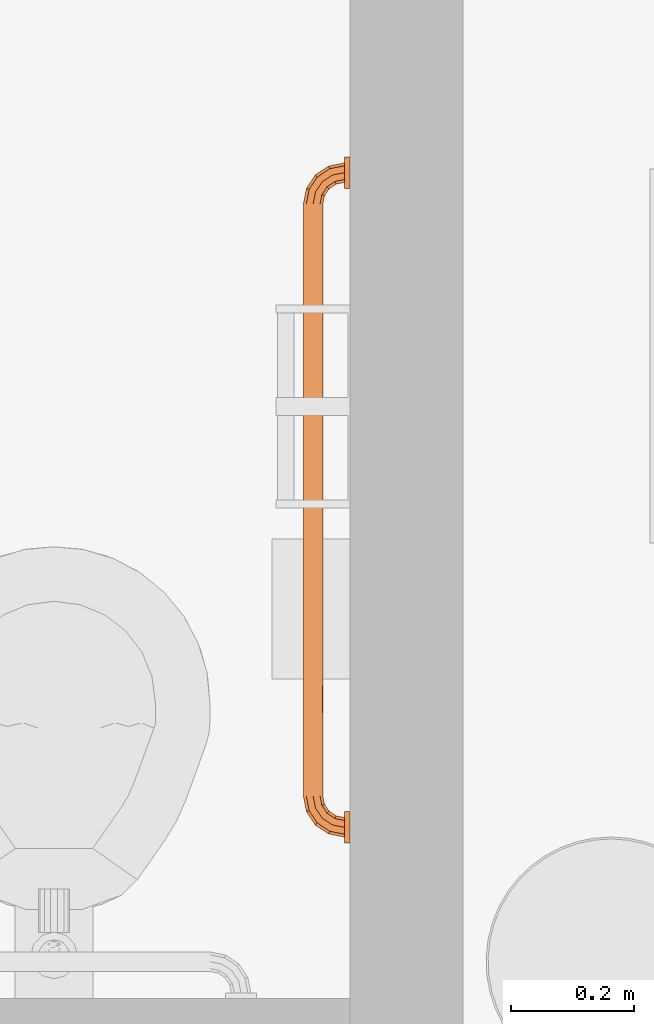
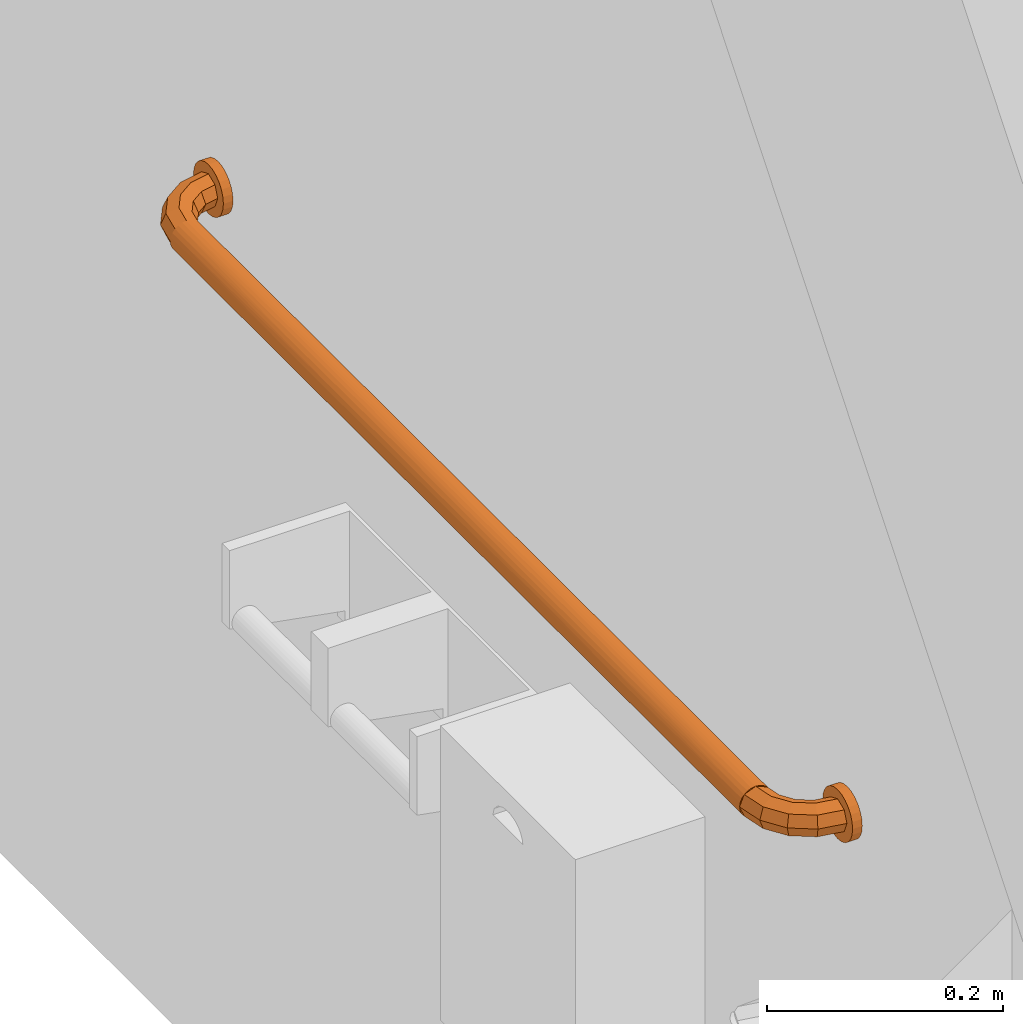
# One storey, part 17 of 142: 1 proxy.
"""IFC2X3 building model written with IfcOpenShell, lengths in feet."""

from ifc_helpers import new_model, entity, si_unit, converted_unit, derived_unit, direction, frame, origin, place, context, subcontext, project, spatial, faceted_brep, source, transform, mapped, type_object, type_shapes, element, save


model = new_model("IFC2X3")

# Units and contexts
model_context = context("Model", 3, precision=0.0001, world=origin(), true_north=direction((6.12303176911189e-17, 1.0)))
body_context = subcontext(model_context, "Body", "Model", "MODEL_VIEW")
ifc_project = project(units=[converted_unit("LENGTHUNIT", "FOOT", entity("IfcRatioMeasure", 0.3048), si_unit("LENGTHUNIT", "METRE"), dimensions=[1, 0, 0, 0, 0, 0, 0]), converted_unit("AREAUNIT", "SQUARE FOOT", entity("IfcRatioMeasure", 0.09290304), si_unit("AREAUNIT", "SQUARE_METRE"), dimensions=[2, 0, 0, 0, 0, 0, 0]), converted_unit("VOLUMEUNIT", "CUBIC FOOT", entity("IfcRatioMeasure", 0.028316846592), si_unit("VOLUMEUNIT", "CUBIC_METRE"), dimensions=[3, 0, 0, 0, 0, 0, 0]), converted_unit("PLANEANGLEUNIT", "DEGREE", entity("IfcRatioMeasure", 0.0174532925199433), si_unit("PLANEANGLEUNIT", "RADIAN"), dimensions=[0, 0, 0, 0, 0, 0, 0]), si_unit("MASSUNIT", "GRAM", prefix="KILO"), derived_unit("MASSDENSITYUNIT", [(si_unit("MASSUNIT", "GRAM", prefix="KILO"), 1), (si_unit("LENGTHUNIT", "METRE"), -3)]), si_unit("TIMEUNIT", "SECOND"), si_unit("FREQUENCYUNIT", "HERTZ"), si_unit("THERMODYNAMICTEMPERATUREUNIT", "DEGREE_CELSIUS"), derived_unit("THERMALTRANSMITTANCEUNIT", [(si_unit("MASSUNIT", "GRAM", prefix="KILO"), 1), (si_unit("THERMODYNAMICTEMPERATUREUNIT", "KELVIN"), -1), (si_unit("TIMEUNIT", "SECOND"), -3)]), derived_unit("VOLUMETRICFLOWRATEUNIT", [(si_unit("LENGTHUNIT", "METRE"), 3), (si_unit("TIMEUNIT", "SECOND"), -1)]), si_unit("ELECTRICCURRENTUNIT", "AMPERE"), si_unit("ELECTRICVOLTAGEUNIT", "VOLT"), si_unit("POWERUNIT", "WATT"), si_unit("FORCEUNIT", "NEWTON"), si_unit("ILLUMINANCEUNIT", "LUX"), si_unit("LUMINOUSFLUXUNIT", "LUMEN"), si_unit("LUMINOUSINTENSITYUNIT", "CANDELA"), derived_unit("USERDEFINED", [(si_unit("MASSUNIT", "GRAM", prefix="KILO"), -1), (si_unit("LENGTHUNIT", "METRE"), -2), (si_unit("TIMEUNIT", "SECOND"), 3), (si_unit("LUMINOUSFLUXUNIT", "LUMEN"), 1)]), derived_unit("LINEARVELOCITYUNIT", [(si_unit("LENGTHUNIT", "METRE"), 1), (si_unit("TIMEUNIT", "SECOND"), -1)]), si_unit("PRESSUREUNIT", "PASCAL"), derived_unit("USERDEFINED", [(si_unit("LENGTHUNIT", "METRE"), -2), (si_unit("MASSUNIT", "GRAM", prefix="KILO"), 1), (si_unit("TIMEUNIT", "SECOND"), -2)])], contexts=[model_context])

# Site, building, storey, space
site_placement = place(None, origin())
site = spatial("IfcSite", under=ifc_project, at=site_placement, Name="Default", CompositionType="ELEMENT")
building_placement = place(site_placement, origin())
building = spatial("IfcBuilding", under=site, at=building_placement, Name="OUTPATIENT / PACT CLINIC (Ch. 265)", CompositionType="ELEMENT")
storey_placement = place(building_placement, origin())
storey = spatial("IfcBuildingStorey", under=building, at=storey_placement, Name="LEVEL 1", CompositionType="ELEMENT", Elevation=0.0)
space_placement = place(storey_placement, origin())
space = spatial("IfcSpace", under=storey, at=space_placement, Name="TNPG1", CompositionType="ELEMENT", InteriorOrExteriorSpace="INTERNAL")

# Proxy
building_element_proxy_type = type_object("IfcBuildingElementProxyType", Name="A5109 - Grab Bar, 1.25 in Dia, SS, 2 Wall, W-C Accessible_Improved", PredefinedType="NOTDEFINED")
shared_shape = source(origin(), body_context, "Body", "Brep", [
    faceted_brep([(0.897113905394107, -0.185229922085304, 0.05208333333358), (0.883020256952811, -0.151204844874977, 0.0368284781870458), (0.833333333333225, -0.161088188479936, 0.0368284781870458), (0.8333333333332, -0.197916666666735, 0.05208333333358), (0.877182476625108, -0.137111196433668, 0.0), (0.833333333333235, -0.145833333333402, 0.0), (0.883020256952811, -0.151204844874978, -0.0368284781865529), (0.833333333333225, -0.161088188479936, -0.0368284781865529), (0.897113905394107, -0.185229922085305, -0.0520833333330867), (0.8333333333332, -0.197916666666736, -0.0520833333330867), (0.911207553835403, -0.219254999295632, -0.0368284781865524), (0.833333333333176, -0.234745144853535, -0.0368284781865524), (0.917045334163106, -0.233348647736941, 0.0), (0.833333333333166, -0.250000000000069, 0.0), (0.911207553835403, -0.219254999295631, 0.0368284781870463), (0.833333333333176, -0.234745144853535, 0.0368284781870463), (0.951184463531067, -0.149101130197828, 0.05208333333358), (0.925142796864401, -0.123059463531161, 0.0368284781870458), (0.914355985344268, -0.112272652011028, 0.0), (0.925142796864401, -0.123059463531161, -0.0368284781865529), (0.951184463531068, -0.149101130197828, -0.0520833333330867), (0.977226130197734, -0.175142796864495, -0.0368284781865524), (0.988012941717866, -0.185929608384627, 0.0), (0.977226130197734, -0.175142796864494, 0.0368284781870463), (0.987313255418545, -0.0950305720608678, 0.05208333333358), (0.953288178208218, -0.0809369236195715, 0.0368284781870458), (0.939194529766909, -0.0750991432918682, 0.0), (0.953288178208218, -0.0809369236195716, -0.0368284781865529), (0.987313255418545, -0.0950305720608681, -0.0520833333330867), (1.02133833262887, -0.109124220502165, -0.0368284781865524), (1.03543198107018, -0.114962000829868, 0.0), (1.02133833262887, -0.109124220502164, 0.0368284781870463), (1.0, -0.0312499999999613, 0.05208333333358), (0.963171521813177, -0.031249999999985, 0.0368284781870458), (0.947916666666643, -0.0312499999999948, 0.0), (0.963171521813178, -0.031249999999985, -0.0368284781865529), (1.0, -0.0312499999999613, -0.0520833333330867), (1.03682847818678, -0.0312499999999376, -0.0368284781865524), (1.05208333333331, -0.0312499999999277, 0.0), (1.03682847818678, -0.0312499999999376, 0.0368284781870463)], [[[0, 1, 2, 3]], [[1, 4, 5, 2]], [[4, 6, 7, 5]], [[6, 8, 9, 7]], [[8, 10, 11, 9]], [[10, 12, 13, 11]], [[12, 14, 15, 13]], [[14, 0, 3, 15]], [[16, 17, 1, 0]], [[17, 18, 4, 1]], [[18, 19, 6, 4]], [[19, 20, 8, 6]], [[20, 21, 10, 8]], [[21, 22, 12, 10]], [[22, 23, 14, 12]], [[23, 16, 0, 14]], [[24, 25, 17, 16]], [[25, 26, 18, 17]], [[26, 27, 19, 18]], [[27, 28, 20, 19]], [[28, 29, 21, 20]], [[29, 30, 22, 21]], [[30, 31, 23, 22]], [[31, 24, 16, 23]], [[32, 33, 25, 24]], [[33, 34, 26, 25]], [[34, 35, 27, 26]], [[35, 36, 28, 27]], [[36, 37, 29, 28]], [[37, 38, 30, 29]], [[38, 39, 31, 30]], [[39, 32, 24, 31]], [[3, 2, 5, 7, 9, 11, 13, 15]], [[39, 38, 37, 36, 35, 34, 33, 32]]]),
    faceted_brep([(0.978431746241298, -0.0312499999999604, -0.0804938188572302), (1.0, -0.0312499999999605, -0.0833333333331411), (1.02156825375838, -0.0312499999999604, -0.08049381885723), (1.04166666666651, -0.0312499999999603, -0.0721687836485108), (1.05892556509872, -0.0312499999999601, -0.0589255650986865), (1.07216878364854, -0.0312499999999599, -0.0416666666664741), (1.08049381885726, -0.0312499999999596, -0.0215682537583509), (1.08333333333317, -0.0312499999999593, 0.0), (1.08049381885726, -0.031249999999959, 0.0215682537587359), (1.07216878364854, -0.0312499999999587, 0.0416666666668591), (1.05892556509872, -0.0312499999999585, 0.0589255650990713), (1.04166666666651, -0.0312499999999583, 0.0721687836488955), (1.02156825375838, -0.0312499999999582, 0.0804938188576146), (1.0, -0.0312499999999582, 0.0833333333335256), (0.978431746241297, -0.0312499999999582, 0.0804938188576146), (0.958333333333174, -0.0312499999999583, 0.0721687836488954), (0.941074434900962, -0.0312499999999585, 0.0589255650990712), (0.927831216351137, -0.0312499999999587, 0.0416666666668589), (0.919506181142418, -0.031249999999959, 0.0215682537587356), (0.916666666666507, -0.0312499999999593, 0.0), (0.919506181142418, -0.0312499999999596, -0.0215682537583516), (0.927831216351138, -0.0312499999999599, -0.0416666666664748), (0.941074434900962, -0.0312499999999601, -0.058925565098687), (0.958333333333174, -0.0312499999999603, -0.0721687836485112), (1.0, 0.0, 0.0833333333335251), (1.02156825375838, 0.0, 0.0804938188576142), (1.04166666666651, 0.0, 0.0721687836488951), (1.05892556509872, 0.0, 0.0589255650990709), (1.07216878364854, 0.0, 0.0416666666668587), (1.08049381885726, 0.0, 0.0215682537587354), (1.08333333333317, 0.0, 0.0), (1.08049381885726, 0.0, -0.0215682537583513), (1.07216878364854, 0.0, -0.0416666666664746), (1.05892556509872, 0.0, -0.0589255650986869), (1.04166666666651, 0.0, -0.0721687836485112), (1.02156825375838, 0.0, -0.0804938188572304), (1.0, 0.0, -0.0833333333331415), (0.978431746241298, 0.0, -0.0804938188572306), (0.958333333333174, 0.0, -0.0721687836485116), (0.941074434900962, 0.0, -0.0589255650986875), (0.927831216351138, 0.0, -0.0416666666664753), (0.919506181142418, 0.0, -0.0215682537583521), (0.916666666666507, 0.0, 0.0), (0.919506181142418, 0.0, 0.0215682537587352), (0.927831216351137, 0.0, 0.0416666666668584), (0.941074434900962, 0.0, 0.0589255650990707), (0.958333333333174, 0.0, 0.072168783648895), (0.978431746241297, 0.0, 0.0804938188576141)], [[[0, 1, 2, 3, 4, 5, 6, 7, 8, 9, 10, 11, 12, 13, 14, 15, 16, 17, 18, 19, 20, 21, 22, 23]], [[24, 25, 26, 27, 28, 29, 30, 31, 32, 33, 34, 35, 36, 37, 38, 39, 40, 41, 42, 43, 44, 45, 46, 47]], [[30, 7, 6, 31]], [[31, 6, 5, 32]], [[34, 33, 4, 3]], [[4, 33, 32, 5]], [[35, 34, 3, 2]], [[35, 2, 1, 36]], [[36, 1, 0, 37]], [[37, 0, 23, 38]], [[40, 39, 22, 21]], [[22, 39, 38, 23]], [[41, 40, 21, 20]], [[41, 20, 19, 42]], [[42, 19, 18, 43]], [[43, 18, 17, 44]], [[46, 45, 16, 15]], [[16, 45, 44, 17]], [[47, 46, 15, 14]], [[47, 14, 13, 24]], [[24, 13, 12, 25]], [[25, 12, 11, 26]], [[28, 27, 10, 9]], [[10, 27, 26, 11]], [[29, 28, 9, 8]], [[29, 8, 7, 30]]]),
    faceted_brep([(-2.4873132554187, -0.0950305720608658, 0.0520833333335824), (-2.45328817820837, -0.0809369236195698, 0.0368284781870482), (-2.46317152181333, -0.0312499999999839, 0.0368284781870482), (-2.50000000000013, -0.0312499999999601, 0.0520833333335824), (-2.43919452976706, -0.0750991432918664, 0.0), (-2.4479166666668, -0.0312499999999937, 0.0), (-2.45328817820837, -0.0809369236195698, -0.0368284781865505), (-2.46317152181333, -0.0312499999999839, -0.0368284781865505), (-2.4873132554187, -0.0950305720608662, -0.0520833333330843), (-2.50000000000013, -0.0312499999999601, -0.0520833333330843), (-2.52133833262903, -0.109124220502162, -0.03682847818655), (-2.53682847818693, -0.0312499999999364, -0.03682847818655), (-2.53543198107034, -0.114962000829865, 0.0), (-2.55208333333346, -0.0312499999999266, 0.0), (-2.52133833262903, -0.109124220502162, 0.0368284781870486), (-2.53682847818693, -0.0312499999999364, 0.0368284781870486), (-2.45118446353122, -0.149101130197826, 0.0520833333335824), (-2.42514279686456, -0.123059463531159, 0.0368284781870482), (-2.41435598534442, -0.112272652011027, 0.0), (-2.42514279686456, -0.123059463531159, -0.0368284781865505), (-2.45118446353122, -0.149101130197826, -0.0520833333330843), (-2.47722613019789, -0.175142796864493, -0.03682847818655), (-2.48801294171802, -0.185929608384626, 0.0), (-2.47722613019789, -0.175142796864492, 0.0368284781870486), (-2.39711390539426, -0.185229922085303, 0.0520833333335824), (-2.38302025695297, -0.151204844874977, 0.0368284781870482), (-2.37718247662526, -0.137111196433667, 0.0), (-2.38302025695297, -0.151204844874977, -0.0368284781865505), (-2.39711390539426, -0.185229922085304, -0.0520833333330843), (-2.41120755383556, -0.219254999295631, -0.03682847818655), (-2.41704533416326, -0.23334864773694, 0.0), (-2.41120755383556, -0.21925499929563, 0.0368284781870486), (-2.33333333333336, -0.197916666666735, 0.0520833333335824), (-2.33333333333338, -0.161088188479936, 0.0368284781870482), (-2.33333333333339, -0.145833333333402, 0.0), (-2.33333333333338, -0.161088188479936, -0.0368284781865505), (-2.33333333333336, -0.197916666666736, -0.0520833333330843), (-2.33333333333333, -0.234745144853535, -0.03682847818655), (-2.33333333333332, -0.250000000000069, 0.0), (-2.33333333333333, -0.234745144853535, 0.0368284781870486)], [[[0, 1, 2, 3]], [[1, 4, 5, 2]], [[4, 6, 7, 5]], [[6, 8, 9, 7]], [[8, 10, 11, 9]], [[10, 12, 13, 11]], [[12, 14, 15, 13]], [[14, 0, 3, 15]], [[16, 17, 1, 0]], [[17, 18, 4, 1]], [[18, 19, 6, 4]], [[19, 20, 8, 6]], [[20, 21, 10, 8]], [[21, 22, 12, 10]], [[22, 23, 14, 12]], [[23, 16, 0, 14]], [[24, 25, 17, 16]], [[25, 26, 18, 17]], [[26, 27, 19, 18]], [[27, 28, 20, 19]], [[28, 29, 21, 20]], [[29, 30, 22, 21]], [[30, 31, 23, 22]], [[31, 24, 16, 23]], [[32, 33, 25, 24]], [[33, 34, 26, 25]], [[34, 35, 27, 26]], [[35, 36, 28, 27]], [[36, 37, 29, 28]], [[37, 38, 30, 29]], [[38, 39, 31, 30]], [[39, 32, 24, 31]], [[3, 2, 5, 7, 9, 11, 13, 15]], [[39, 38, 37, 36, 35, 34, 33, 32]]]),
    faceted_brep([(-2.45833333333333, -0.0312499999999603, -0.0721687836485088), (-2.44107443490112, -0.0312499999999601, -0.0589255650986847), (-2.42783121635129, -0.0312499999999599, -0.0416666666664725), (-2.41950618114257, -0.0312499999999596, -0.0215682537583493), (-2.41666666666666, -0.0312499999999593, 0.0), (-2.41950618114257, -0.031249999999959, 0.021568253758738), (-2.42783121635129, -0.0312499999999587, 0.0416666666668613), (-2.44107443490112, -0.0312499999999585, 0.0589255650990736), (-2.45833333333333, -0.0312499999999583, 0.0721687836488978), (-2.47843174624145, -0.0312499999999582, 0.080493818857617), (-2.49999999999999, -0.0312499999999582, 0.083333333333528), (-2.52156825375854, -0.0312499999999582, 0.080493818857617), (-2.54166666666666, -0.0312499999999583, 0.0721687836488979), (-2.55892556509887, -0.0312499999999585, 0.0589255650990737), (-2.5721687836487, -0.0312499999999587, 0.0416666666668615), (-2.58049381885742, -0.031249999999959, 0.0215682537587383), (-2.58333333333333, -0.0312499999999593, 0.0), (-2.58049381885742, -0.0312499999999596, -0.0215682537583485), (-2.5721687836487, -0.0312499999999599, -0.0416666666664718), (-2.55892556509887, -0.0312499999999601, -0.0589255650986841), (-2.54166666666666, -0.0312499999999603, -0.0721687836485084), (-2.52156825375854, -0.0312499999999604, -0.0804938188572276), (-2.5, -0.0312499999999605, -0.0833333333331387), (-2.47843174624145, -0.0312499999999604, -0.0804938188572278), (-2.47843174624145, 0.0, 0.0804938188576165), (-2.45833333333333, 0.0, 0.0721687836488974), (-2.44107443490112, 0.0, 0.0589255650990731), (-2.42783121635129, 0.0, 0.0416666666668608), (-2.41950618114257, 0.0, 0.0215682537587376), (-2.41666666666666, 0.0, 0.0), (-2.41950618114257, 0.0, -0.0215682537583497), (-2.42783121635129, 0.0, -0.0416666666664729), (-2.44107443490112, 0.0, -0.0589255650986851), (-2.45833333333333, 0.0, -0.0721687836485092), (-2.47843174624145, 0.0, -0.0804938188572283), (-2.5, 0.0, -0.0833333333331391), (-2.52156825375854, 0.0, -0.0804938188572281), (-2.54166666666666, 0.0, -0.0721687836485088), (-2.55892556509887, 0.0, -0.0589255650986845), (-2.5721687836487, 0.0, -0.0416666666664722), (-2.58049381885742, 0.0, -0.0215682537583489), (-2.58333333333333, 0.0, 0.0), (-2.58049381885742, 0.0, 0.0215682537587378), (-2.5721687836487, 0.0, 0.0416666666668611), (-2.55892556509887, 0.0, 0.0589255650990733), (-2.54166666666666, 0.0, 0.0721687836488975), (-2.52156825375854, 0.0, 0.0804938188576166), (-2.49999999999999, 0.0, 0.0833333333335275)], [[[0, 1, 2, 3, 4, 5, 6, 7, 8, 9, 10, 11, 12, 13, 14, 15, 16, 17, 18, 19, 20, 21, 22, 23]], [[24, 25, 26, 27, 28, 29, 30, 31, 32, 33, 34, 35, 36, 37, 38, 39, 40, 41, 42, 43, 44, 45, 46, 47]], [[40, 17, 16, 41]], [[39, 18, 17, 40]], [[20, 19, 38, 37]], [[39, 38, 19, 18]], [[21, 20, 37, 36]], [[22, 21, 36, 35]], [[34, 23, 22, 35]], [[33, 0, 23, 34]], [[2, 1, 32, 31]], [[33, 32, 1, 0]], [[3, 2, 31, 30]], [[4, 3, 30, 29]], [[28, 5, 4, 29]], [[27, 6, 5, 28]], [[8, 7, 26, 25]], [[27, 26, 7, 6]], [[9, 8, 25, 24]], [[10, 9, 24, 47]], [[46, 11, 10, 47]], [[45, 12, 11, 46]], [[14, 13, 44, 43]], [[45, 44, 13, 12]], [[15, 14, 43, 42]], [[16, 15, 42, 41]]]),
    faceted_brep([(0.833333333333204, -0.171875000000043, 0.0451054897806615), (0.833333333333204, -0.18443650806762, 0.0503086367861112), (0.833333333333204, -0.19791666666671, 0.0520833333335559), (0.833333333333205, -0.211396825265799, 0.0503086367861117), (0.833333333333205, -0.223958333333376, 0.0451054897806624), (0.833333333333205, -0.234745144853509, 0.0368284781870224), (0.833333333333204, -0.24302215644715, 0.0260416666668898), (0.833333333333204, -0.248225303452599, 0.0134801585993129), (0.833333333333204, -0.250000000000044, 0.0), (0.833333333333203, -0.2482253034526, -0.0134801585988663), (0.833333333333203, -0.24302215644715, -0.0260416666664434), (0.833333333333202, -0.23474514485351, -0.0368284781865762), (0.833333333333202, -0.223958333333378, -0.0451054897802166), (0.833333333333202, -0.211396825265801, -0.0503086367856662), (0.833333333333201, -0.197916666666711, -0.0520833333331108), (0.833333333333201, -0.184436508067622, -0.0503086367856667), (0.833333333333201, -0.171875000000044, -0.0451054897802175), (0.833333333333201, -0.161088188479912, -0.0368284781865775), (0.833333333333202, -0.152811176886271, -0.026041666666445), (0.833333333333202, -0.147608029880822, -0.013480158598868), (0.833333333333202, -0.145833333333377, 0.0), (0.833333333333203, -0.147608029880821, 0.0134801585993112), (0.833333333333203, -0.15281117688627, 0.0260416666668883), (0.833333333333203, -0.16108818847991, 0.0368284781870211), (-2.33333333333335, -0.250000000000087, 0.0), (-2.33333333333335, -0.248225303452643, 0.0134801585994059), (-2.33333333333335, -0.243022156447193, 0.0260416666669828), (-2.33333333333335, -0.234745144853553, 0.0368284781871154), (-2.33333333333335, -0.22395833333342, 0.0451054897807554), (-2.33333333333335, -0.211396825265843, 0.0503086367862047), (-2.33333333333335, -0.197916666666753, 0.0520833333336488), (-2.33333333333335, -0.184436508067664, 0.0503086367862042), (-2.33333333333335, -0.171875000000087, 0.0451054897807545), (-2.33333333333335, -0.161088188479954, 0.0368284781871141), (-2.33333333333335, -0.152811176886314, 0.0260416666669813), (-2.33333333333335, -0.147608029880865, 0.0134801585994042), (-2.33333333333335, -0.145833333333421, 0.0), (-2.33333333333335, -0.147608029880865, -0.013480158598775), (-2.33333333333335, -0.152811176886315, -0.026041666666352), (-2.33333333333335, -0.161088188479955, -0.0368284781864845), (-2.33333333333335, -0.171875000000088, -0.0451054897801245), (-2.33333333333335, -0.184436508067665, -0.0503086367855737), (-2.33333333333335, -0.197916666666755, -0.0520833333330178), (-2.33333333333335, -0.211396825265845, -0.0503086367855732), (-2.33333333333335, -0.223958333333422, -0.0451054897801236), (-2.33333333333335, -0.234745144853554, -0.0368284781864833), (-2.33333333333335, -0.243022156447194, -0.0260416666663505), (-2.33333333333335, -0.248225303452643, -0.0134801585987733), (-1.67492969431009, -0.166210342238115, -0.0413204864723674), (-0.311848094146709, -0.148126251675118, -0.0152835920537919), (0.196503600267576, -0.149797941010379, -0.0199314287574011), (-0.276748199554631, -0.151866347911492, -0.0243319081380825), (0.29993908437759, -0.18649594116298, 0.0508157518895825), (0.0101222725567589, -0.177985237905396, 0.0481187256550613), (-1.67492969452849, -0.14979794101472, -0.0199314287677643), (-1.42456747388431, -0.156596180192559, -0.0317063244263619), (-0.755977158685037, -0.156060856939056, 0.0309962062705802), (-1.23645507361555, -0.151490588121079, 0.0236070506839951), (-1.42456747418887, -0.156596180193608, 0.0317063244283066), (-1.67492969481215, -0.166210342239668, 0.0413204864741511), (0.196503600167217, -0.166210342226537, -0.0413204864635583), (0.196503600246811, -0.166210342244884, 0.0413204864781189), (-1.67492969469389, -0.146278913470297, 0.00679823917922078), (-1.42456747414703, -0.146278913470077, -0.00679823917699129), (-1.42046336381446, -0.197916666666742, -0.0520833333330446), (-1.78579026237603, -0.188851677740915, -0.0512883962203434), (-1.30622143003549, -0.188929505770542, -0.0513020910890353), (0.353111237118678, -0.188470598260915, -0.0512195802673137), (0.376897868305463, -0.197916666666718, -0.0520833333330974), (0.162869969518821, -0.197916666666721, -0.0520833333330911), (-1.42044746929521, -0.19791666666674, 0.052083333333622), (-1.79525717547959, -0.189086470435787, 0.0513293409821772), (0.0101222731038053, -0.156596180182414, -0.0317063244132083), (-0.543829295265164, -0.166210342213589, -0.041320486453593), (-0.0754325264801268, -0.146278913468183, -0.00679823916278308), (-0.0333583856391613, -0.146886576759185, 0.0104213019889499), (0.0101222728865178, -0.177985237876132, -0.0481187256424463), (-0.172360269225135, -0.188469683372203, -0.0512194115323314), (-1.72253061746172, -0.149797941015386, 0.019931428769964), (-0.750000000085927, -0.149797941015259, -0.019931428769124), (-0.711016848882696, -0.156707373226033, -0.0318507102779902), (-0.863636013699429, -0.146048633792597, 0.00473083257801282), (-1.10937949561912, -0.163299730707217, 0.0389145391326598), (-0.7737053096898, -0.146416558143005, -0.00777254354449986), (0.344326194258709, -0.148857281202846, 0.0174885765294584), (-1.2362653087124, -0.147768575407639, 0.0140656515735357), (-1.89605715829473, -0.177985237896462, -0.0481187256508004), (-0.743946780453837, -0.175651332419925, -0.0470842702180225), (-0.543829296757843, -0.166210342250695, 0.0413204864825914), (-1.20643546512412, -0.188019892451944, 0.051134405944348), (-0.992408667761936, -0.197916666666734, 0.0520833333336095), (-0.53595087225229, -0.197916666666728, 0.0520833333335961), (-0.662425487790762, -0.180266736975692, 0.0490015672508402), (-1.33497324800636, -0.177985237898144, 0.0481187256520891), (-1.87503514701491, -0.179059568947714, 0.0485498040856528), (0.0101222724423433, -0.156596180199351, 0.0317063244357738), (-0.242367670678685, -0.187420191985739, 0.0510146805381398), (-1.10937949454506, -0.168131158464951, -0.0427258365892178), (-0.842730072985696, -0.186586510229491, -0.0508360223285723), (-0.136483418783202, -0.150566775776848, 0.0216947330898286), (-0.750000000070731, -0.149797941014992, 0.0199314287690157), (-1.33497324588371, -0.177985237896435, -0.0481187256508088), (-0.0795375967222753, -0.197916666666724, -0.052083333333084), (-0.50759339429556, -0.19791666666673, -0.0520833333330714), (-0.535973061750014, -0.197916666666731, -0.0520833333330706), (-0.992408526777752, -0.197916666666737, -0.0520833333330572), (-0.0795228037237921, -0.197916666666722, 0.0520833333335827), (0.162872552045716, -0.197916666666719, 0.0520833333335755), (0.376905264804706, -0.197916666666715, 0.0520833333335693), (-0.507588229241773, -0.197916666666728, 0.0520833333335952), (-1.67492969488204, -0.229622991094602, 0.0413204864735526), (-0.311848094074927, -0.247707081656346, 0.0152835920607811), (0.196503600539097, -0.246035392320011, 0.0199314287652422), (-0.27674819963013, -0.243966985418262, 0.0243319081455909), (0.299939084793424, -0.209337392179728, -0.050815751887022), (0.0101222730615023, -0.217848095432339, -0.0481187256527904), (-1.67492969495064, -0.246035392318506, 0.0199314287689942), (-1.42456747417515, -0.239237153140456, 0.0317063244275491), (-0.755977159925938, -0.239772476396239, -0.0309962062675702), (-1.23645507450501, -0.244342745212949, -0.0236070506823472), (-1.42456747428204, -0.239237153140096, -0.0317063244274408), (-1.67492969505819, -0.229622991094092, -0.0413204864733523), (0.196503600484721, -0.229622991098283, 0.0413204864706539), (0.196503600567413, -0.229622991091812, -0.0413204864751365), (-1.67492969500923, -0.249554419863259, -0.00679823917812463), (-1.42456747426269, -0.249554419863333, 0.00679823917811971), (-1.7857902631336, -0.206981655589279, 0.0512883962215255), (-1.30622143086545, -0.206903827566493, 0.0513020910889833), (0.353111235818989, -0.207362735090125, 0.05121958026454), (-1.79525717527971, -0.206746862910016, -0.0513293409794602), (0.010122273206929, -0.23923715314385, 0.0317063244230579), (-0.543829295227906, -0.229622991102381, 0.0413204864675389), (-0.0754325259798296, -0.249554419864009, 0.00679823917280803), (-0.0333583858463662, -0.248946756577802, -0.0104213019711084), (0.0101222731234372, -0.217848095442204, 0.0481187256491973), (-0.172360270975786, -0.207363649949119, 0.0512194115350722), (-1.72253061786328, -0.246035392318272, -0.0199314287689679), (-0.750000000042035, -0.246035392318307, 0.0199314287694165), (-0.711016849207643, -0.239125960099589, 0.0318507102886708), (-0.863636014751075, -0.24978469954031, -0.0047308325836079), (-1.10937949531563, -0.232533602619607, -0.0389145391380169), (-0.773705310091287, -0.249416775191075, 0.00777254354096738), (0.344326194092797, -0.246976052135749, -0.0174885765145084), (-1.23626530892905, -0.248064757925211, -0.0140656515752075), (-1.89605715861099, -0.217848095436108, 0.0481187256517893), (-0.743946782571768, -0.220182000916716, 0.0470842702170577), (-0.543829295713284, -0.229622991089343, -0.0413204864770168), (-1.20643546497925, -0.207813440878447, -0.0511344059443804), (-0.662425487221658, -0.215566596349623, -0.0490015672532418), (-1.33497324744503, -0.217848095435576, -0.0481187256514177), (-1.87503514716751, -0.216773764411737, -0.0485498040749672), (0.0101222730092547, -0.239237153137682, -0.0317063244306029), (-0.24236766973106, -0.208413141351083, -0.0510146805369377), (-1.10937949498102, -0.227702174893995, 0.0427258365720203), (-0.842730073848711, -0.209246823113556, 0.0508360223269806), (-0.136483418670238, -0.245266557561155, -0.0216947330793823), (-0.75000000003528, -0.246035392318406, -0.0199314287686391), (-1.33497324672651, -0.217848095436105, 0.0481187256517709)], [[[0, 1, 2, 3, 4, 5, 6, 7, 8, 9, 10, 11, 12, 13, 14, 15, 16, 17, 18, 19, 20, 21, 22, 23]], [[24, 25, 26, 27, 28, 29, 30, 31, 32, 33, 34, 35, 36, 37, 38, 39, 40, 41, 42, 43, 44, 45, 46, 47]], [[39, 48, 40]], [[49, 50, 51]], [[52, 1, 53]], [[54, 38, 37]], [[54, 55, 38]], [[56, 57, 58]], [[33, 32, 59]], [[16, 60, 17]], [[61, 0, 23]], [[36, 62, 63]], [[64, 65, 66]], [[37, 36, 63]], [[48, 39, 55]], [[55, 39, 38]], [[34, 33, 58]], [[67, 14, 68, 69]], [[30, 70, 71]], [[72, 60, 73]], [[72, 18, 17]], [[20, 74, 75]], [[19, 18, 50]], [[76, 60, 16]], [[50, 18, 72]], [[69, 77, 67]], [[78, 62, 35]], [[79, 80, 55]], [[81, 75, 74]], [[59, 58, 33]], [[82, 58, 59]], [[63, 62, 81]], [[62, 36, 35]], [[76, 16, 15]], [[83, 63, 81]], [[53, 1, 0]], [[19, 74, 20]], [[84, 22, 21]], [[85, 62, 78]], [[86, 41, 40]], [[76, 77, 87]], [[61, 88, 53]], [[89, 70, 90, 91]], [[92, 93, 89]], [[94, 31, 71]], [[41, 86, 65]], [[23, 95, 61]], [[96, 53, 92]], [[80, 72, 73]], [[79, 55, 54]], [[73, 87, 97]], [[95, 23, 22]], [[98, 87, 77]], [[99, 84, 75]], [[56, 100, 57]], [[92, 88, 93]], [[96, 52, 53]], [[91, 96, 92]], [[41, 65, 42]], [[70, 89, 71]], [[93, 94, 71]], [[88, 92, 53]], [[35, 34, 78]], [[62, 85, 81]], [[75, 81, 100]], [[63, 83, 79]], [[99, 75, 100]], [[75, 21, 20]], [[37, 63, 54]], [[79, 54, 63]], [[55, 80, 97]], [[86, 48, 101]], [[94, 59, 32]], [[82, 93, 88]], [[93, 71, 89]], [[30, 71, 31]], [[51, 50, 72]], [[74, 19, 50]], [[73, 60, 76]], [[72, 17, 60]], [[88, 61, 95]], [[77, 69, 102, 103]], [[53, 0, 61]], [[34, 58, 78]], [[78, 57, 85]], [[59, 94, 93]], [[32, 31, 94]], [[98, 77, 103]], [[67, 76, 15]], [[98, 103, 104, 105, 64]], [[98, 101, 87]], [[97, 101, 48]], [[76, 87, 73]], [[101, 97, 87]], [[55, 97, 48]], [[76, 67, 77]], [[14, 67, 15]], [[89, 91, 92]], [[52, 106, 107, 108, 2]], [[52, 2, 1]], [[106, 52, 96]], [[96, 91, 109, 106]], [[57, 78, 58]], [[81, 85, 100]], [[56, 58, 82]], [[100, 85, 57]], [[48, 86, 40]], [[98, 66, 101]], [[101, 65, 86]], [[42, 65, 64]], [[101, 66, 65]], [[98, 64, 66]], [[81, 74, 83]], [[49, 83, 74]], [[93, 82, 59]], [[88, 95, 56]], [[88, 56, 82]], [[99, 56, 95]], [[80, 79, 51]], [[97, 80, 73]], [[56, 99, 100]], [[84, 95, 22]], [[84, 99, 95]], [[21, 75, 84]], [[80, 51, 72]], [[49, 51, 79]], [[83, 49, 79]], [[50, 49, 74]], [[27, 110, 28]], [[111, 112, 113]], [[114, 13, 115]], [[116, 26, 25]], [[116, 117, 26]], [[118, 119, 120]], [[45, 44, 121]], [[4, 122, 5]], [[123, 12, 11]], [[24, 124, 125]], [[70, 126, 127]], [[25, 24, 125]], [[110, 27, 117]], [[117, 27, 26]], [[46, 45, 120]], [[128, 2, 108, 107]], [[42, 64, 129]], [[130, 122, 131]], [[130, 6, 5]], [[8, 132, 133]], [[7, 6, 112]], [[134, 122, 4]], [[112, 6, 130]], [[107, 135, 128]], [[136, 124, 47]], [[137, 138, 117]], [[139, 133, 132]], [[121, 120, 45]], [[140, 120, 121]], [[125, 124, 139]], [[124, 24, 47]], [[134, 4, 3]], [[141, 125, 139]], [[115, 13, 12]], [[7, 132, 8]], [[142, 10, 9]], [[143, 124, 136]], [[144, 29, 28]], [[134, 135, 145]], [[123, 146, 115]], [[147, 64, 105, 104]], [[148, 149, 147]], [[150, 43, 129]], [[29, 144, 126]], [[11, 151, 123]], [[152, 115, 148]], [[138, 130, 131]], [[137, 117, 116]], [[131, 145, 153]], [[151, 11, 10]], [[154, 145, 135]], [[155, 142, 133]], [[118, 156, 119]], [[148, 146, 149]], [[152, 114, 115]], [[104, 152, 148]], [[29, 126, 30]], [[64, 147, 129]], [[149, 150, 129]], [[146, 148, 115]], [[47, 46, 136]], [[124, 143, 139]], [[133, 139, 156]], [[125, 141, 137]], [[155, 133, 156]], [[133, 9, 8]], [[25, 125, 116]], [[137, 116, 125]], [[117, 138, 153]], [[144, 110, 157]], [[131, 122, 134]], [[150, 121, 44]], [[140, 149, 146]], [[149, 129, 147]], [[42, 129, 43]], [[113, 112, 130]], [[132, 7, 112]], [[130, 5, 122]], [[146, 123, 151]], [[135, 107, 106, 109]], [[115, 12, 123]], [[46, 120, 136]], [[136, 119, 143]], [[121, 150, 149]], [[44, 43, 150]], [[154, 135, 109]], [[128, 134, 3]], [[154, 109, 91, 90, 70]], [[154, 157, 145]], [[153, 157, 110]], [[134, 145, 131]], [[157, 153, 145]], [[117, 153, 110]], [[134, 128, 135]], [[2, 128, 3]], [[147, 104, 148]], [[114, 102, 69, 68, 14]], [[114, 14, 13]], [[102, 114, 152]], [[152, 104, 103, 102]], [[119, 136, 120]], [[139, 143, 156]], [[118, 120, 140]], [[156, 143, 119]], [[110, 144, 28]], [[154, 127, 157]], [[157, 126, 144]], [[30, 126, 70]], [[157, 127, 126]], [[154, 70, 127]], [[139, 132, 141]], [[111, 141, 132]], [[149, 140, 121]], [[146, 151, 118]], [[146, 118, 140]], [[155, 118, 151]], [[138, 137, 113]], [[153, 138, 131]], [[118, 155, 156]], [[142, 151, 10]], [[142, 155, 151]], [[9, 133, 142]], [[138, 113, 130]], [[111, 113, 137]], [[141, 111, 137]], [[112, 111, 132]]]),
])
type_shapes(building_element_proxy_type, [shared_shape])
proxy_placement = place(space_placement, frame((417.942616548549, -945.607989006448, 3.0), z_axis=(0.0, 0.0, 1.0), x_axis=(0.0, -1.0, 0.0)))
element("IfcBuildingElementProxy", 1, at=proxy_placement, inside=space, type_object=building_element_proxy_type, Name="A5109 - Grab Bar, 1.25 in Dia, SS, 2 Wall, W-C Accessible_Improved1:A5109 - Grab Bar, 1.25 in Dia, SS, 2 Wall, W-C Accessible_Improved", ObjectType="A5109 - Grab Bar, 1.25 in Dia, SS, 2 Wall, W-C Accessible_Improved", context=body_context, shape_type="MappedRepresentation", body=[
    mapped(shared_shape, transform((0.0, 0.0, 0.0), scale=1.0)),
])

save(model, "model.ifc")
